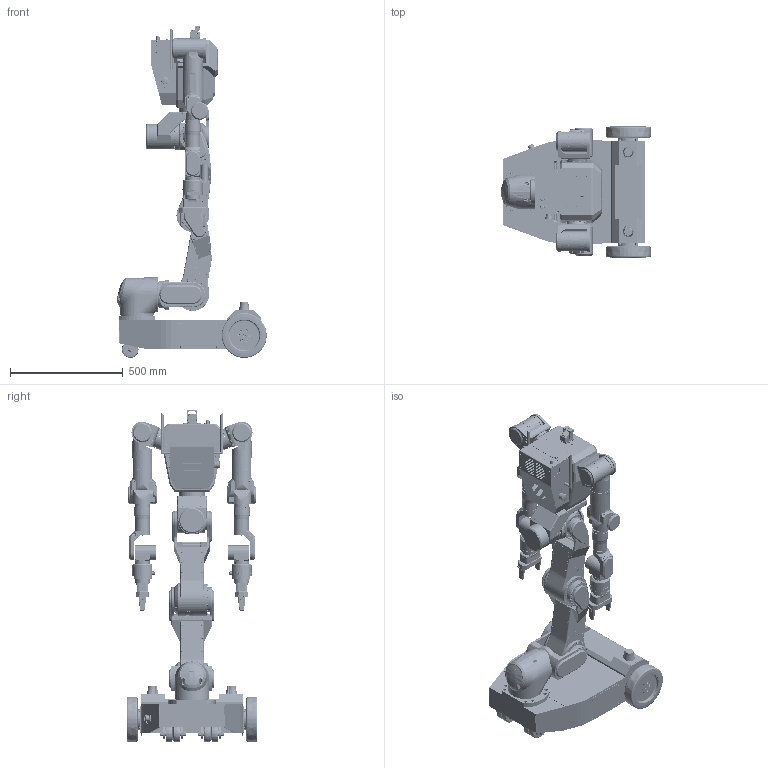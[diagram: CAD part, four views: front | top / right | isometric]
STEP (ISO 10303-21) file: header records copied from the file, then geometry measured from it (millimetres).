
FILE_DESCRIPTION(/* description */ (''),/* implementation_level */ '2;1');
FILE_NAME(/* name */ 'RB-Y1_v1.0_3D_Power Grip_DD_260107.stp',/* time_stamp */ '2026-01-08T10:17:00+09:00',/* author */ ('KiWook.H'),/* organization */ (''),/* preprocessor_version */ 'ST-DEVELOPER v20',/* originating_system */ 'Autodesk Inventor 2025',/* authorisation */ '');
FILE_SCHEMA (('AUTOMOTIVE_DESIGN { 1 0 10303 214 3 1 1 }'));
Products named in the file (22): RB-Y1_v1.0_3D_Power Grip_DD_260107; 000_Base_v1.0; 001_AR_v1.0; 002_AP_v1.0; 003_KN_v1.0; 004_HP_v1.0; 005_HR_v1.0; 006_HY_v1.0; 007_SP_R_v1.0; 008_SR_R_v1.0; 009_SY_R_v1.0; 010_EL_R_v1.0; 011_WY1_R_v1.0; 012_WP_R_v1.0; 014_SP_L_v1.0; 015_SR_L_v1.0; 016_SY_L_v1.0; 017_EL_L_v1.0; 018_WY1_L_v1.0; 019_WP_L_v1.0; 020_TF_v1.0; 021_Grippper_Power_v1.0
Assembly tree (23 placements, depth 2):
  RB-Y1_v1.0_3D_Power Grip_DD_260107
    000_Base_v1.0
    001_AR_v1.0
    002_AP_v1.0
    003_KN_v1.0
    004_HP_v1.0
    005_HR_v1.0
    006_HY_v1.0
    007_SP_R_v1.0
    008_SR_R_v1.0
    009_SY_R_v1.0
    010_EL_R_v1.0
    011_WY1_R_v1.0
    012_WP_R_v1.0
    014_SP_L_v1.0
    015_SR_L_v1.0
    016_SY_L_v1.0
    017_EL_L_v1.0
    018_WY1_L_v1.0
    019_WP_L_v1.0
    020_TF_v1.0  x2
    021_Grippper_Power_v1.0  x2
Bounding box: 662.62 x 580 x 1470 mm (x, y, z)
Volume: 70998406.6 mm3; surface area: 4887013.7 mm2
Topology: 47 solids, 223 shells, 16323 faces, 41973 edges, 27170 vertices
Faces by surface type: plane 9026, cylinder 4409, cone 1732, torus 747, bspline 330, sphere 79
Full cylindrical faces by diameter (mm): 0.7 x16, 1.03 x16, 1.5 x10, 1.7 x10, 2 x16, 2.013 x4, 2.05 x12, 2.2 x4, 2.459 x57, 2.5 x27, 2.693 x12, 3 x133, 3.1 x10, 3.2 x16, 3.242 x13, 3.3 x8, 3.4 x16, 3.9 x1, 4 x83, 4.2 x8, 4.5 x22, 4.8 x6, 4.917 x8, 5 x118, 5.1 x4, 5.2 x6, 5.5 x101, 5.6 x5, 5.7 x11, 6 x120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
Entity records: 587188 total; most frequent: CARTESIAN_POINT 203431, ORIENTED_EDGE 78440, DIRECTION 75639, EDGE_CURVE 39220, AXIS2_PLACEMENT_3D 27391, VERTEX_POINT 25719, LINE 20857, VECTOR 20857
